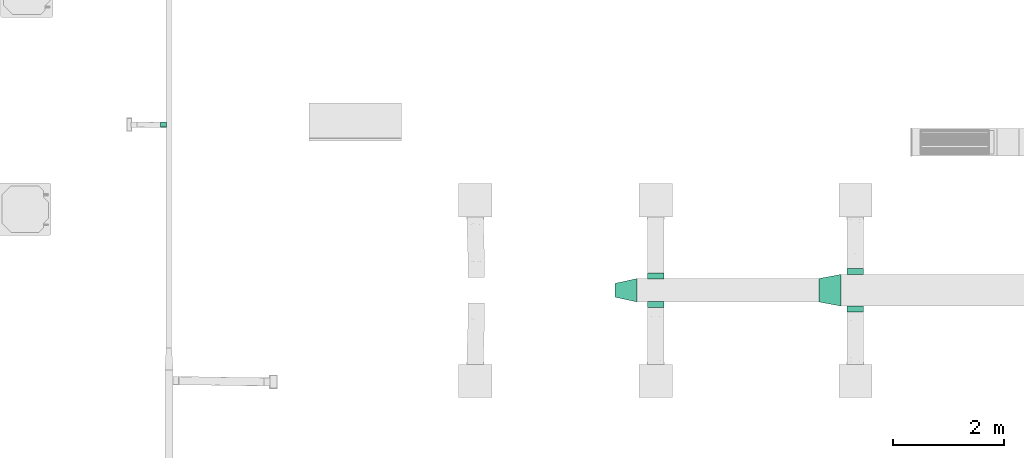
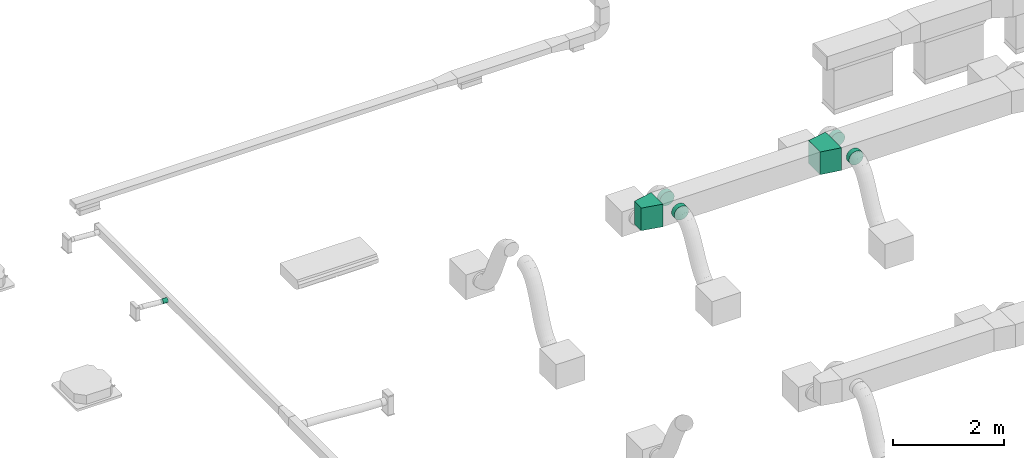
# One storey, part 24 of 60: 7 flow fittings.
"""IFC2X3 building model written with IfcOpenShell, lengths in millimetres."""

from ifc_helpers import new_model, entity, si_unit, converted_unit, derived_unit, direction, frame, origin, place, context, subcontext, project, spatial, polyline, outline, extrude, faceted_brep, source, transform, mapped, material, type_object, type_shapes, element, save


model = new_model("IFC2X3")

# Units and contexts
model_context = context("Model", 3, precision=0.01, world=origin(), true_north=direction((6.123233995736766e-17, 1.0)))
body_context = subcontext(model_context, "Body", "Model", "MODEL_VIEW")
ifc_project = project(units=[si_unit("LENGTHUNIT", "METRE", prefix="MILLI"), converted_unit("PLANEANGLEUNIT", "DEGREE", entity("IfcPlaneAngleMeasure", 0.017453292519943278), si_unit("PLANEANGLEUNIT", "RADIAN"), dimensions=[0, 0, 0, 0, 0, 0, 0]), si_unit("AREAUNIT", "SQUARE_METRE"), derived_unit("THERMALTRANSMITTANCEUNIT", [(si_unit("MASSUNIT", "GRAM", prefix="KILO"), 1), (si_unit("THERMODYNAMICTEMPERATUREUNIT", "KELVIN"), -1), (si_unit("TIMEUNIT", "SECOND"), -3)])], contexts=[model_context])

# Site, building, storey
site_placement = place(None, origin())
site = spatial("IfcSite", under=ifc_project, at=site_placement, Name="Default", CompositionType="ELEMENT")
building_placement = place(site_placement, origin())
building = spatial("IfcBuilding", under=site, at=building_placement, Name="Praça Pedro II, 1301 - Centro (Sul), Teresina - PI, 64001-100", CompositionType="ELEMENT")
storey_placement = place(building_placement, frame((0.0, 0.0, 6040.0)))
storey = spatial("IfcBuildingStorey", under=building, at=storey_placement, Name="2PAV", CompositionType="ELEMENT", Elevation=6040.0)

# Flow fittings
ifc_material = material(Name="<Unnamed>")
duct_fitting_type_1 = type_object("IfcDuctFittingType", Name="M_Encaixe de duto redondo:Padrão", PredefinedType="NOTDEFINED", material=ifc_material)
shared_shape_1 = source(origin(), body_context, "Body", "Brep", [
    faceted_brep([(101.6000000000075, 0.0, -150.0), (101.6000000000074, 38.82285676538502, -144.88887394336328), (101.60000000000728, 75.0, -129.90381056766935), (101.6000000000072, 106.06601717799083, -106.06601717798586), (101.60000000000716, 129.90381056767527, -75.0), (101.6000000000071, 144.8888739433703, -38.82285676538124), (101.60000000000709, 150.0, 0.0), (101.6000000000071, 144.88887394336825, 38.82285676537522), (101.60000000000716, 129.90381056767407, 75.0), (101.6000000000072, 106.06601717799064, 106.0660171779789), (101.60000000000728, 75.0, 129.90381056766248), (101.6000000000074, 38.82285676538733, 144.88887394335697), (101.6000000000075, 0.0, 150.0), (101.6000000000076, -38.82285676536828, 144.88887394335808), (101.6000000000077, -75.0, 129.90381056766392), (101.60000000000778, -106.0660171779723, 106.06601717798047), (101.60000000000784, -129.90381056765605, 75.0), (101.60000000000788, -144.88887394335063, 38.822856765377), (101.6000000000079, -150.0, 0.0), (101.60000000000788, -144.88887394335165, -38.8228567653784), (101.60000000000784, -129.90381056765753, -75.0), (101.60000000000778, -106.0660171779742, -106.06601717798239), (101.6000000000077, -75.0, -129.90381056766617), (101.6000000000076, -38.82285676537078, -144.88887394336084), (0.0, 0.0, 150.0), (-6.095999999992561, 0.0, 150.0), (-6.095999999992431, -38.82285676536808, 144.88887394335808), (0.0, -38.82285676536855, 144.88887394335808), (-6.09599999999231, -75.0, 129.90381056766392), (0.0, -75.0, 129.90381056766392), (-6.095999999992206, -106.06601717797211, 106.06601717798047), (0.0, -106.06601717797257, 106.06601717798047), (0.0, -129.9038105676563, 75.0), (-6.095999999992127, -129.90381056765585, 75.0), (-6.0959999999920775, -144.88887394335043, 38.822856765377), (0.0, -144.88887394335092, 38.82285676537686), (-6.09599999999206, -150.0, 0.0), (0.0, -150.0, 0.0), (-6.0959999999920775, -144.88887394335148, -38.8228567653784), (0.0, -144.88887394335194, -38.8228567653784), (-6.095999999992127, -129.90381056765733, -75.0), (0.0, -129.90381056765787, -75.0), (-6.095999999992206, -106.066017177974, -106.06601717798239), (0.0, -106.06601717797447, -106.06601717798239), (0.0, -75.0, -129.90381056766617), (-6.09599999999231, -75.0, -129.90381056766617), (-6.095999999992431, -38.822856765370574, -144.88887394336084), (0.0, -38.82285676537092, -144.88887394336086), (-6.095999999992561, 0.0, -150.0), (0.0, 0.0, -150.0), (0.0, 75.0, -129.90381056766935), (0.0, 38.82285676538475, -144.88887394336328), (-6.095999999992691, 38.82285676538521, -144.88887394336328), (-6.095999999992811, 75.0, -129.90381056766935), (-6.095999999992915, 106.06601717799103, -106.06601717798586), (0.0, 106.06601717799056, -106.06601717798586), (0.0, 129.903810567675, -75.0), (-6.095999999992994, 129.9038105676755, -75.0), (-6.095999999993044, 144.8888739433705, -38.82285676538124), (0.0, 144.88887394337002, -38.82285676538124), (-6.0959999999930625, 150.0, 0.0), (0.0, 150.0, 0.0), (-6.095999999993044, 144.88887394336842, 38.82285676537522), (0.0, 144.88887394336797, 38.82285676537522), (-6.095999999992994, 129.90381056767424, 75.0), (0.0, 129.9038105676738, 75.0), (-6.095999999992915, 106.06601717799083, 106.0660171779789), (0.0, 106.06601717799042, 106.06601717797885), (0.0, 75.0, 129.90381056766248), (-6.095999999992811, 75.0, 129.90381056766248), (-6.095999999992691, 38.82285676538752, 144.88887394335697), (0.0, 38.82285676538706, 144.88887394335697)], [[[0, 1, 2, 3, 4, 5, 6, 7, 8, 9, 10, 11, 12, 13, 14, 15, 16, 17, 18, 19, 20, 21, 22, 23]], [[13, 12, 24, 25, 26, 27]], [[14, 13, 27, 26, 28, 29]], [[29, 28, 30, 31, 15, 14]], [[17, 16, 32, 33, 34, 35]], [[18, 17, 35, 34, 36, 37]], [[31, 30, 33, 32, 16, 15]], [[19, 18, 37, 36, 38, 39]], [[20, 19, 39, 38, 40, 41]], [[41, 40, 42, 43, 21, 20]], [[23, 22, 44, 45, 46, 47]], [[0, 23, 47, 46, 48, 49]], [[43, 42, 45, 44, 22, 21]], [[50, 2, 1, 51, 52, 53]], [[51, 1, 0, 49, 48, 52]], [[50, 53, 54, 55, 3, 2]], [[5, 4, 56, 57, 58, 59]], [[6, 5, 59, 58, 60, 61]], [[55, 54, 57, 56, 4, 3]], [[7, 6, 61, 60, 62, 63]], [[8, 7, 63, 62, 64, 65]], [[65, 64, 66, 67, 9, 8]], [[11, 10, 68, 69, 70, 71]], [[12, 11, 71, 70, 25, 24]], [[67, 66, 69, 68, 10, 9]], [[46, 45, 42, 40, 38, 36, 34, 33, 30, 28, 26, 25, 70, 69, 66, 64, 62, 60, 58, 57, 54, 53, 52, 48]]]),
])
type_shapes(duct_fitting_type_1, [shared_shape_1])
flow_fitting_1_placement = place(storey_placement, frame((22547.247914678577, -57960.92127782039, 3480.0), z_axis=(0.0, 0.0, -1.0), x_axis=(0.0, 1.0, 0.0)))
element("IfcFlowFitting", 1, at=flow_fitting_1_placement, inside=storey, type_object=duct_fitting_type_1, material=ifc_material, Name="M_Encaixe de duto redondo:Padrão", ObjectType="M_Encaixe de duto redondo:Padrão", context=body_context, shape_type="MappedRepresentation", body=[
    mapped(shared_shape_1, transform((0.0, 0.0, 0.0), scale=1.0)),
])
duct_fitting_type_2 = type_object("IfcDuctFittingType", Name="M_Encaixe de duto redondo:Padrão", PredefinedType="NOTDEFINED", material=ifc_material)
shared_shape_2 = source(origin(), body_context, "Body", "Brep", [
    faceted_brep([(101.6000000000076, 38.82285676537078, -144.88887394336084), (101.6000000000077, 75.0, -129.90381056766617), (101.60000000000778, 106.0660171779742, -106.06601717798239), (101.60000000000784, 129.90381056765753, -75.0), (101.60000000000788, 144.88887394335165, -38.8228567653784), (101.6000000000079, 150.0, 0.0), (101.60000000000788, 144.88887394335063, 38.822856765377), (101.60000000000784, 129.90381056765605, 75.0), (101.60000000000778, 106.0660171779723, 106.06601717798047), (101.6000000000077, 75.0, 129.90381056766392), (101.6000000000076, 38.82285676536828, 144.88887394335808), (101.6000000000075, 0.0, 150.0), (101.6000000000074, -38.82285676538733, 144.88887394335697), (101.60000000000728, -75.0, 129.90381056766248), (101.6000000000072, -106.06601717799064, 106.0660171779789), (101.60000000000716, -129.90381056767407, 75.0), (101.6000000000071, -144.88887394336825, 38.82285676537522), (101.60000000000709, -150.0, 0.0), (101.6000000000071, -144.8888739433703, -38.82285676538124), (101.60000000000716, -129.90381056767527, -75.0), (101.6000000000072, -106.06601717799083, -106.06601717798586), (101.60000000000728, -75.0, -129.90381056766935), (101.6000000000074, -38.82285676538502, -144.88887394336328), (101.6000000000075, 0.0, -150.0), (0.0, 38.82285676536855, 144.88887394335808), (-6.095999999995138, 38.82285676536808, 144.88887394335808), (-6.095999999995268, 0.0, 150.0), (0.0, 0.0, 150.0), (0.0, 75.0, 129.90381056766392), (-6.095999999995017, 75.0, 129.90381056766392), (0.0, 106.06601717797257, 106.06601717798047), (-6.0959999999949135, 106.06601717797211, 106.06601717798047), (0.0, 144.88887394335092, 38.82285676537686), (-6.095999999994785, 144.88887394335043, 38.822856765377), (-6.095999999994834, 129.90381056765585, 75.0), (0.0, 129.9038105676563, 75.0), (0.0, 150.0, 0.0), (-6.095999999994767, 150.0, 0.0), (0.0, 144.88887394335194, -38.8228567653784), (-6.095999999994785, 144.88887394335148, -38.8228567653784), (0.0, 129.90381056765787, -75.0), (-6.095999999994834, 129.90381056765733, -75.0), (0.0, 106.06601717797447, -106.06601717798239), (-6.0959999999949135, 106.066017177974, -106.06601717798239), (0.0, 38.82285676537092, -144.88887394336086), (-6.095999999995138, 38.822856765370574, -144.88887394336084), (-6.095999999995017, 75.0, -129.90381056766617), (0.0, 75.0, -129.90381056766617), (0.0, 0.0, -150.0), (-6.095999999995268, 0.0, -150.0), (0.0, -75.0, -129.90381056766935), (-6.095999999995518, -75.0, -129.90381056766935), (-6.095999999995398, -38.82285676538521, -144.88887394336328), (0.0, -38.82285676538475, -144.88887394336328), (0.0, -106.06601717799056, -106.06601717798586), (-6.095999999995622, -106.06601717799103, -106.06601717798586), (0.0, -144.88887394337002, -38.82285676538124), (-6.095999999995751, -144.8888739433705, -38.82285676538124), (-6.095999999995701, -129.9038105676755, -75.0), (0.0, -129.903810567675, -75.0), (0.0, -150.0, 0.0), (-6.09599999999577, -150.0, 0.0), (0.0, -144.88887394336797, 38.82285676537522), (-6.095999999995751, -144.88887394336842, 38.82285676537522), (0.0, -129.9038105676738, 75.0), (-6.095999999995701, -129.90381056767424, 75.0), (0.0, -106.06601717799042, 106.06601717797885), (-6.095999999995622, -106.06601717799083, 106.0660171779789), (0.0, -38.82285676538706, 144.88887394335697), (-6.095999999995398, -38.82285676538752, 144.88887394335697), (-6.095999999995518, -75.0, 129.90381056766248), (0.0, -75.0, 129.90381056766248)], [[[0, 1, 2, 3, 4, 5, 6, 7, 8, 9, 10, 11, 12, 13, 14, 15, 16, 17, 18, 19, 20, 21, 22, 23]], [[24, 25, 26, 27, 11, 10]], [[28, 29, 25, 24, 10, 9]], [[9, 8, 30, 31, 29, 28]], [[32, 33, 34, 35, 7, 6]], [[36, 37, 33, 32, 6, 5]], [[8, 7, 35, 34, 31, 30]], [[38, 39, 37, 36, 5, 4]], [[40, 41, 39, 38, 4, 3]], [[3, 2, 42, 43, 41, 40]], [[44, 45, 46, 47, 1, 0]], [[48, 49, 45, 44, 0, 23]], [[2, 1, 47, 46, 43, 42]], [[22, 21, 50, 51, 52, 53]], [[23, 22, 53, 52, 49, 48]], [[21, 20, 54, 55, 51, 50]], [[56, 57, 58, 59, 19, 18]], [[60, 61, 57, 56, 18, 17]], [[20, 19, 59, 58, 55, 54]], [[62, 63, 61, 60, 17, 16]], [[64, 65, 63, 62, 16, 15]], [[15, 14, 66, 67, 65, 64]], [[68, 69, 70, 71, 13, 12]], [[27, 26, 69, 68, 12, 11]], [[14, 13, 71, 70, 67, 66]], [[49, 52, 51, 55, 58, 57, 61, 63, 65, 67, 70, 69, 26, 25, 29, 31, 34, 33, 37, 39, 41, 43, 46, 45]]]),
])
type_shapes(duct_fitting_type_2, [shared_shape_2])
for number, where, z_axis, x_axis in (
    (2, (22547.247914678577, -58535.92127782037, 3480.0), (0.0, 0.0, -1.0), (0.0, -1.0, 0.0)),
    (3, (18939.450610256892, -58460.92127782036, 3480.0), (0.0, 0.0, -1.0), (0.0, -1.0, 0.0)),
    (4, (18939.450610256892, -58035.92127782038, 3480.0), (0.0, 0.0, 1.0), (0.0, 1.0, 0.0)),
):
    element("IfcFlowFitting", number, at=place(storey_placement, frame(where, z_axis=z_axis, x_axis=x_axis)), inside=storey, type_object=duct_fitting_type_2, material=ifc_material, Name="M_Encaixe de duto redondo:Padrão", ObjectType="M_Encaixe de duto redondo:Padrão", context=body_context, shape_type="MappedRepresentation", body=[
        mapped(shared_shape_2, transform((0.0, 0.0, 0.0), scale=1.0)),
    ])
duct_fitting_type_3 = type_object("IfcDuctFittingType", Name="M_Rectangular Transition - L:400 mm (L)", PredefinedType="NOTDEFINED", material=ifc_material)
shared_shape_3 = source(origin(), body_context, "Body", "SweptSolid", [
    extrude(outline(polyline([(-157.41312368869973, -245.71804673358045), (249.55739121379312, -245.71804673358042), (143.59148355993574, 319.4334607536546), (-235.73575108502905, 172.00263271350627), (-157.41312368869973, -245.71804673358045)])), frame((200.0, 0.0, -250.0), z_axis=(0.0, 0.0, 1.0), x_axis=(0.9828721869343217, -0.18428853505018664, 0.0)), (0.0, 0.0, 1.0), 500.00000000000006),
])
type_shapes(duct_fitting_type_3, [shared_shape_3])
flow_fitting_2_placement = place(storey_placement, frame((21895.106224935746, -58248.421277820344, 3480.0)))
element("IfcFlowFitting", 5, at=flow_fitting_2_placement, inside=storey, type_object=duct_fitting_type_3, material=ifc_material, Name="M_Rectangular Transition - L:400 mm (L)", ObjectType="M_Rectangular Transition - L:400 mm (L)", context=body_context, shape_type="MappedRepresentation", body=[
    mapped(shared_shape_3, transform((0.0, 0.0, 0.0), scale=1.0)),
])
duct_fitting_type_4 = type_object("IfcDuctFittingType", Name="M_Rectangular Transition - L:400 mm (L)", PredefinedType="NOTDEFINED", material=ifc_material)
shared_shape_4 = source(origin(), body_context, "Body", "SweptSolid", [
    extrude(outline(polyline([(-240.79059022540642, -164.85187793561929), (168.6678936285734, -164.85187793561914), (222.0921133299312, 79.37312641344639), (-149.96941673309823, 250.3306294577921), (-240.79059022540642, -164.85187793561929)])), frame((200.0, 0.0, -250.0), z_axis=(0.0, 0.0, 1.0), x_axis=(0.976900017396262, 0.21369687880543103, 0.0)), (0.0, 0.0, 1.0), 500.00000000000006),
])
type_shapes(duct_fitting_type_4, [shared_shape_4])
flow_fitting_3_placement = place(storey_placement, frame((18606.009106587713, -58248.42127782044, 3480.0), z_axis=(0.0, 0.0, 1.0), x_axis=(-1.0, 0.0, 0.0)))
element("IfcFlowFitting", 6, at=flow_fitting_3_placement, inside=storey, type_object=duct_fitting_type_4, material=ifc_material, Name="M_Rectangular Transition - L:400 mm (L)", ObjectType="M_Rectangular Transition - L:400 mm (L)", context=body_context, shape_type="MappedRepresentation", body=[
    mapped(shared_shape_4, transform((0.0, 0.0, 0.0), scale=1.0)),
])
duct_fitting_type_5 = type_object("IfcDuctFittingType", Name="M_Encaixe de duto redondo:Padrão", PredefinedType="NOTDEFINED", material=ifc_material)
shared_shape_5 = source(origin(), body_context, "Body", "Brep", [
    faceted_brep([(101.6000000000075, 0.0, -50.0), (101.60000000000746, 12.94095225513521, -48.29629131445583), (101.60000000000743, 25.0, -43.30127018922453), (101.6000000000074, 35.35533905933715, -35.35533905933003), (101.60000000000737, 43.301270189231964, -25.0), (101.60000000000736, 48.29629131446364, -12.94095225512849), (101.60000000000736, 50.0, 0.0), (101.60000000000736, 48.296291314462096, 12.940952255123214), (101.60000000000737, 43.301270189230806, 25.0), (101.6000000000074, 35.35533905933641, 35.355339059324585), (101.60000000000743, 25.0, 43.30127018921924), (101.60000000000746, 12.940952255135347, 48.29629131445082), (101.6000000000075, 0.0, 50.0), (101.60000000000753, -12.94095225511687, 48.29629131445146), (101.60000000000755, -25.0, 43.30127018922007), (101.6000000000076, -35.35533905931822, 35.35533905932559), (101.60000000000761, -43.301270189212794, 25.0), (101.60000000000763, -48.296291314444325, 12.940952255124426), (101.60000000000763, -50.0, 0.0), (101.60000000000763, -48.2962913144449, -12.940952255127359), (101.60000000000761, -43.30127018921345, -25.0), (101.6000000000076, -35.35533905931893, -35.35533905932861), (101.60000000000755, -25.0, -43.30127018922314), (101.60000000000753, -12.9409522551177, -48.29629131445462), (0.0, 0.0, 50.0), (-6.095999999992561, 0.0, 50.0), (-6.095999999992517, -12.94095225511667, 48.29629131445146), (0.0, -12.940952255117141, 48.29629131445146), (-6.095999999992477, -25.0, 43.30127018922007), (0.0, -25.0, 43.30127018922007), (-6.095999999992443, -35.35533905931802, 35.35533905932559), (0.0, -35.35533905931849, 35.35533905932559), (0.0, -43.301270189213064, 25.0), (-6.095999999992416, -43.3012701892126, 25.0), (-6.0959999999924, -48.296291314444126, 12.940952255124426), (0.0, -48.296291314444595, 12.940952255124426), (-6.095999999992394, -50.0, 0.0), (0.0, -50.0, 0.0), (0.0, -48.29629131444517, -12.940952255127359), (-6.0959999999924, -48.296291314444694, -12.940952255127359), (-6.095999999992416, -43.30127018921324, -25.0), (0.0, -43.30127018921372, -25.0), (-6.095999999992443, -35.35533905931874, -35.35533905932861), (0.0, -35.3553390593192, -35.35533905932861), (0.0, -25.0, -43.30127018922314), (-6.095999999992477, -25.0, -43.30127018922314), (-6.095999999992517, -12.940952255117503, -48.29629131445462), (0.0, -12.940952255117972, -48.29629131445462), (-6.095999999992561, 0.0, -50.0), (0.0, 0.0, -50.0), (-6.095999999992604, 12.940952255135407, -48.29629131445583), (0.0, 12.940952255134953, -48.29629131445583), (-6.095999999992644, 25.0, -43.30127018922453), (0.0, 25.0, -43.30127018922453), (-6.09599999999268, 35.355339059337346, -35.35533905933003), (0.0, 35.35533905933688, -35.35533905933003), (0.0, 43.301270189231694, -25.0), (-6.0959999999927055, 43.30127018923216, -25.0), (-6.0959999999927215, 48.29629131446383, -12.94095225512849), (0.0, 48.29629131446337, -12.94095225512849), (-6.095999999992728, 50.0, 0.0), (0.0, 50.0, 0.0), (-6.0959999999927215, 48.296291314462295, 12.940952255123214), (0.0, 48.296291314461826, 12.940952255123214), (-6.0959999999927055, 43.301270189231, 25.0), (0.0, 43.30127018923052, 25.0), (-6.09599999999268, 35.35533905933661, 35.355339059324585), (0.0, 35.35533905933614, 35.355339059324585), (0.0, 25.0, 43.30127018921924), (-6.095999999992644, 25.0, 43.30127018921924), (-6.095999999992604, 12.940952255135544, 48.29629131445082), (0.0, 12.940952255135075, 48.29629131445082)], [[[0, 1, 2, 3, 4, 5, 6, 7, 8, 9, 10, 11, 12, 13, 14, 15, 16, 17, 18, 19, 20, 21, 22, 23]], [[13, 12, 24, 25, 26, 27]], [[14, 13, 27, 26, 28, 29]], [[29, 28, 30, 31, 15, 14]], [[17, 16, 32, 33, 34, 35]], [[18, 17, 35, 34, 36, 37]], [[31, 30, 33, 32, 16, 15]], [[38, 39, 40, 41, 20, 19]], [[37, 36, 39, 38, 19, 18]], [[41, 40, 42, 43, 21, 20]], [[23, 22, 44, 45, 46, 47]], [[0, 23, 47, 46, 48, 49]], [[43, 42, 45, 44, 22, 21]], [[1, 0, 49, 48, 50, 51]], [[2, 1, 51, 50, 52, 53]], [[53, 52, 54, 55, 3, 2]], [[5, 4, 56, 57, 58, 59]], [[6, 5, 59, 58, 60, 61]], [[55, 54, 57, 56, 4, 3]], [[7, 6, 61, 60, 62, 63]], [[8, 7, 63, 62, 64, 65]], [[65, 64, 66, 67, 9, 8]], [[11, 10, 68, 69, 70, 71]], [[12, 11, 71, 70, 25, 24]], [[67, 66, 69, 68, 10, 9]], [[46, 45, 42, 40, 39, 36, 34, 33, 30, 28, 26, 25, 70, 69, 66, 64, 62, 60, 58, 57, 54, 52, 50, 48]]]),
])
type_shapes(duct_fitting_type_5, [shared_shape_5])
flow_fitting_4_placement = place(storey_placement, frame((10092.511122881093, -55253.0221001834, 2648.7198104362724), z_axis=(0.0, 0.0, -1.0), x_axis=(-1.0, 0.0, 0.0)))
element("IfcFlowFitting", 7, at=flow_fitting_4_placement, inside=storey, type_object=duct_fitting_type_5, material=ifc_material, Name="M_Encaixe de duto redondo:Padrão", ObjectType="M_Encaixe de duto redondo:Padrão", context=body_context, shape_type="MappedRepresentation", body=[
    mapped(shared_shape_5, transform((0.0, 0.0, 0.0), scale=1.0)),
])

save(model, "model.ifc")
